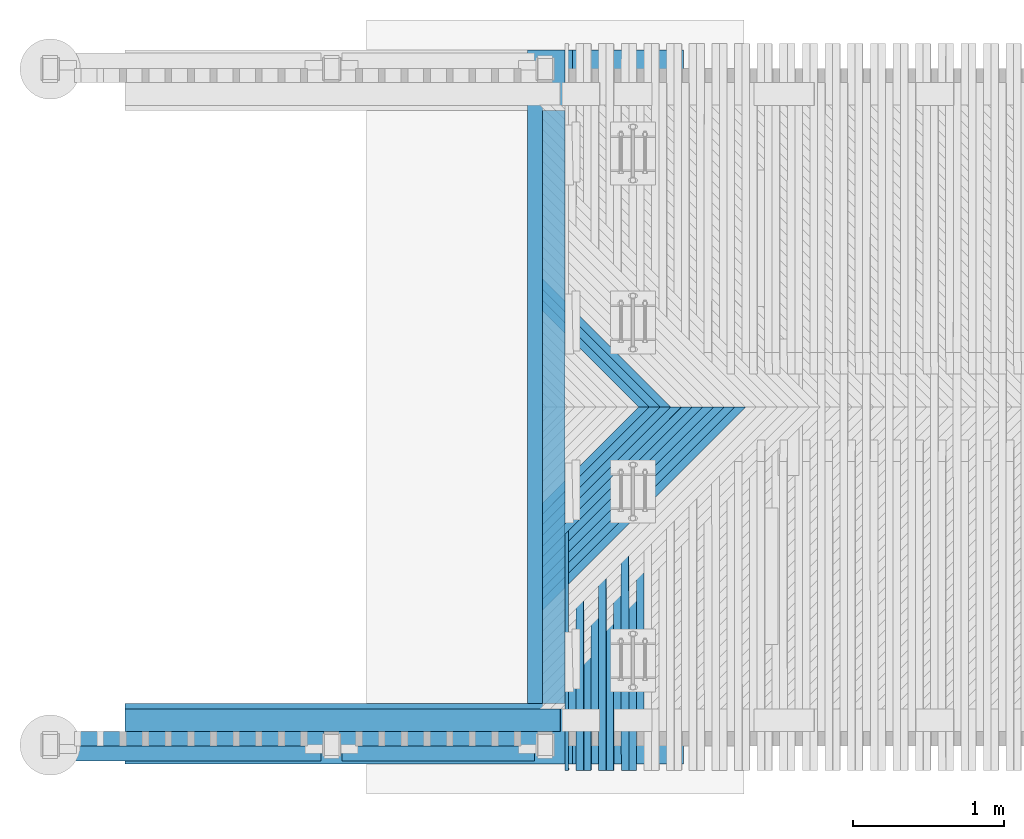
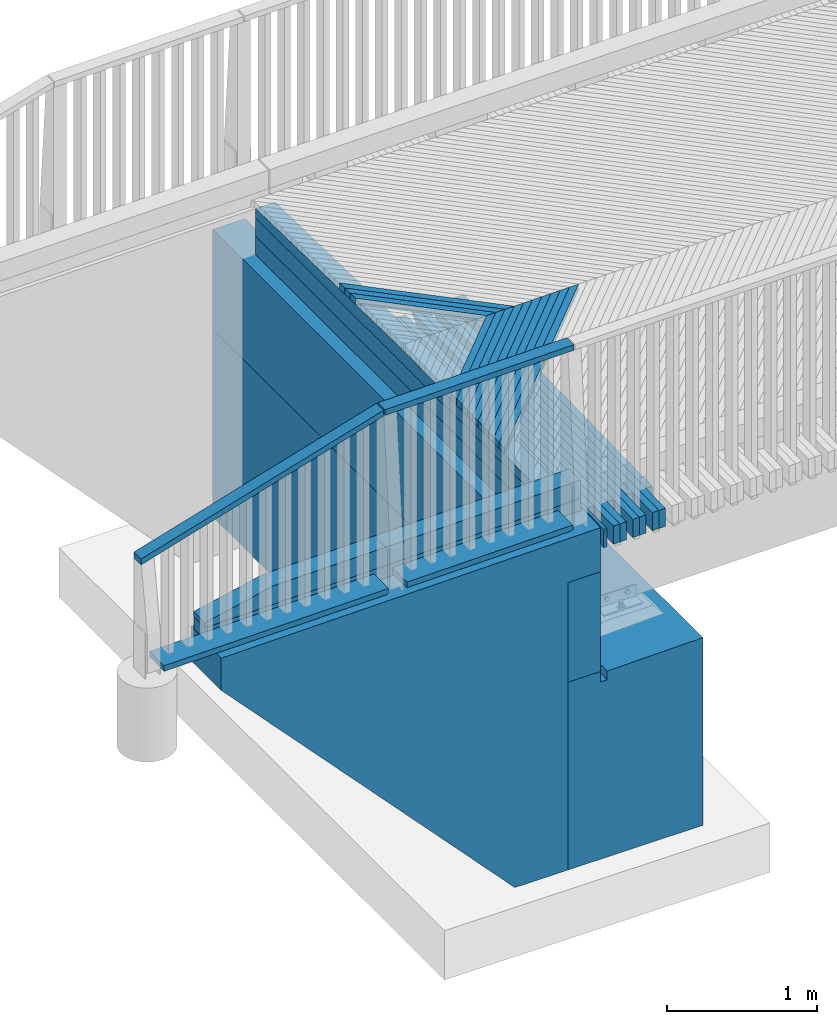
# One storey, part 13 of 47: 36 beams.
"""IFC2X3 building model written with IfcOpenShell, lengths in millimetres."""

from ifc_helpers import new_model, si_unit, frame, origin_with_axes, place, context, subcontext, project, spatial, faceted_brep, material, type_object, element, save


model = new_model("IFC2X3")

# Units and contexts
model_context = context("Model", 3, precision=1e-05, world=origin_with_axes())
body_context = subcontext(model_context, "Body", "Model", "MODEL_VIEW")
ifc_project = project(units=[si_unit("LENGTHUNIT", "METRE", prefix="MILLI"), si_unit("AREAUNIT", "SQUARE_METRE"), si_unit("VOLUMEUNIT", "CUBIC_METRE"), si_unit("MASSUNIT", "GRAM", prefix="KILO"), si_unit("TIMEUNIT", "SECOND"), si_unit("PLANEANGLEUNIT", "RADIAN"), si_unit("SOLIDANGLEUNIT", "STERADIAN"), si_unit("THERMODYNAMICTEMPERATUREUNIT", "DEGREE_CELSIUS"), si_unit("LUMINOUSINTENSITYUNIT", "LUMEN")], contexts=[model_context])

# Site, building, storey
site_placement = place(None, origin_with_axes())
site = spatial("IfcSite", under=ifc_project, at=site_placement, Name="Undefined", CompositionType="ELEMENT")
building_placement = place(site_placement, origin_with_axes())
building = spatial("IfcBuilding", under=site, at=building_placement, Name="Undefined", CompositionType="ELEMENT")
storey_placement = place(building_placement, origin_with_axes())
storey = spatial("IfcBuildingStorey", under=building, at=storey_placement, Name="Undefined", CompositionType="ELEMENT", Elevation=0.0)

# Beams
ifc_material_1 = material(Name="TIMBER/Timber_Undefined")
beam_type_1 = type_object("IfcBeamType", Name="95*45", PredefinedType="NOTDEFINED")
beam_1_placement = place(storey_placement, frame((-2047.34558165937, 60167.5120919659, 4509.17778679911), z_axis=(0.0, -1.0, 0.0), x_axis=(0.999901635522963, 0.0, 0.0140256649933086)))
element("IfcBeam", 1, at=beam_1_placement, inside=storey, type_object=beam_type_1, material=ifc_material_1, Name="YLÄJOHDE", ObjectType="95*45", context=body_context, shape_type="Brep", body=[
    faceted_brep([(10.662208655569, 22.5, -47.5), (10.662208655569, 22.5, 47.5), (1460.80524071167, 22.5, 47.5), (1460.80524071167, 22.5, -47.5), (10.030991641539, -22.4999999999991, 47.5), (1460.17402369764, -22.4999999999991, 47.5), (10.030991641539, -22.4999999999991, -47.5), (1460.17402369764, -22.4999999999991, -47.5)], [[[0, 1, 2, 3]], [[1, 4, 5, 2]], [[4, 6, 7, 5]], [[6, 0, 3, 7]], [[5, 7, 3, 2]], [[6, 4, 1, 0]]]),
])
beam_2_placement = place(storey_placement, frame((-2040.59645881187, 60167.5099640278, 4510.12573356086), z_axis=(0.0, -1.0, 0.0), x_axis=(-0.958249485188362, 0.0, -0.285933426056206)))
element("IfcBeam", 2, at=beam_2_placement, inside=storey, type_object=beam_type_1, material=ifc_material_1, Name="YLÄJOHDE", ObjectType="95*45", context=body_context, shape_type="Brep", body=[
    faceted_brep([(13.4276539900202, 22.4999999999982, -47.5), (13.4276539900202, 22.4999999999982, 47.5), (1959.6848957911, 22.4999999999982, 47.5), (1959.6848957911, 22.4999999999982, -47.5), (4.00216176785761e-05, -22.5000000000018, 47.5), (1946.25728182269, -22.5000000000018, 47.5), (4.00216176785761e-05, -22.5000000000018, -47.5), (1946.25728182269, -22.5000000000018, -47.5)], [[[0, 1, 2, 3]], [[1, 4, 5, 2]], [[4, 6, 7, 5]], [[6, 0, 3, 7]], [[5, 7, 3, 2]], [[6, 4, 1, 0]]]),
])
beam_type_2 = type_object("IfcBeamType", Name="195*45", PredefinedType="NOTDEFINED")
beam_3_placement = place(storey_placement, frame((-3791.71869800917, 60117.5099700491, 3105.29183869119), z_axis=(0.0, -1.0, 0.0), x_axis=(0.999901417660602, 0.0, 0.0140411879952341)))
element("IfcBeam", 3, at=beam_3_placement, inside=storey, type_object=beam_type_2, material=ifc_material_1, Name="BEAM", ObjectType="195*45", context=body_context, shape_type="Brep", body=[
    faceted_brep([(0.0, 22.5, -97.5), (0.0, 22.5, 97.5), (1724.99699880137, 22.5, 97.5), (1724.99699880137, 22.5, -97.5), (0.0, -22.5, 97.5), (1724.99699880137, -22.4999999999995, 97.5), (0.0, -22.5, -97.5), (1724.99699880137, -22.4999999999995, -97.5)], [[[0, 1, 2, 3]], [[1, 4, 5, 2]], [[4, 6, 7, 5]], [[6, 0, 3, 7]], [[5, 7, 3, 2]], [[6, 4, 1, 0]]]),
])
beam_4_placement = place(storey_placement, frame((-1926.69935131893, 60117.5099700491, 3131.48945565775), z_axis=(0.0, -1.0, 0.0), x_axis=(0.999901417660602, 0.0, 0.0140411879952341)))
element("IfcBeam", 4, at=beam_4_placement, inside=storey, type_object=beam_type_2, material=ifc_material_1, Name="BEAM", ObjectType="195*45", context=body_context, shape_type="Brep", body=[
    faceted_brep([(0.0, 22.5, -97.5), (0.0, 22.5, 97.5), (1275.1508080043, 22.5, 97.5), (1275.1508080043, 22.5, -97.5), (0.0, -22.5, 97.5), (1275.15080800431, -22.4999999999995, 97.5), (0.0, -22.5, -97.5), (1275.15080800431, -22.4999999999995, -97.5)], [[[0, 1, 2, 3]], [[1, 4, 5, 2]], [[4, 6, 7, 5]], [[6, 0, 3, 7]], [[5, 7, 3, 2]], [[6, 4, 1, 0]]]),
])
beam_type_3 = type_object("IfcBeamType", Name="150*100", PredefinedType="NOTDEFINED")
beam_5_placement = place(storey_placement, frame((-3364.03058800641, 60289.9999999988, 3118.6757290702), z_axis=(0.0, -1.0, 0.0), x_axis=(0.999904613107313, 0.0, 0.0138117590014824)))
element("IfcBeam", 5, at=beam_5_placement, inside=storey, type_object=beam_type_3, material=ifc_material_1, Name="TÖRMÄYSJOHDE", ObjectType="150*100", context=body_context, shape_type="Brep", body=[
    faceted_brep([(-3.63797880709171e-12, 50.0, -75.0), (-3.63797880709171e-12, 50.0, 75.0), (2885.27521749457, 50.0, 75.0), (2885.27521749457, 50.0, -75.0), (0.0, -49.9999999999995, 75.0), (2885.27521749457, -49.9999999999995, 75.0), (0.0, -49.9999999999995, -75.0), (2885.27521749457, -49.9999999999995, -75.0)], [[[0, 1, 2, 3]], [[1, 4, 5, 2]], [[4, 6, 7, 5]], [[6, 0, 3, 7]], [[5, 7, 3, 2]], [[6, 4, 1, 0]]]),
])
beam_type_4 = type_object("IfcBeamType", Name="150*150", PredefinedType="NOTDEFINED")
beam_6_placement = place(storey_placement, frame((-3366.03588197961, 60289.9999999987, 3243.66334439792), z_axis=(0.0, -1.0, 0.0), x_axis=(0.999904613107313, 0.0, 0.0138117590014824)))
element("IfcBeam", 6, at=beam_6_placement, inside=storey, type_object=beam_type_4, material=ifc_material_1, Name="TÖRMÄYSJOHDE", ObjectType="150*150", context=body_context, shape_type="Brep", body=[
    faceted_brep([(0.0, -75.0000000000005, 75.0), (0.0, -75.0000000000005, -75.0), (2885.27521749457, -74.9999999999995, -75.0), (2885.27521749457, -74.9999999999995, 75.0), (2885.27521749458, 75.0, -75.0), (2885.27521749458, 75.0, 75.0), (529.511118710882, 75.0, -75.0), (529.511118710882, 75.0, 75.0), (4.54747350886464e-13, -33.1222400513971, 75.0), (4.54747350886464e-13, -33.1222400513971, -75.0)], [[[0, 1, 2, 3]], [[3, 2, 4, 5]], [[5, 4, 6, 7]], [[0, 3, 5, 7, 8]], [[1, 0, 8, 9]], [[4, 2, 1, 9, 6]], [[8, 7, 6, 9]]]),
])
beam_7_placement = place(storey_placement, frame((-525.0, 60399.9992755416, 3109.00000000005), z_axis=(-1.0, 0.0, 0.0), x_axis=(0.0, 1.0, 0.0)))
element("IfcBeam", 7, at=beam_7_placement, inside=storey, type_object=beam_type_4, material=ifc_material_1, Name="BEAM", ObjectType="150*150", context=body_context, shape_type="Brep", body=[
    faceted_brep([(3.63797880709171e-12, 75.0000000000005, -75.0), (3.63797880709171e-12, 75.0000000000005, 75.0), (3930.0, 75.0, 75.0), (3930.0, 75.0, -75.0), (3930.0, -0.558028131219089, 75.0), (3930.0, -3.17681141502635, -75.0), (1965.00070282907, -42.4729688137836, -75.0), (0.0, -3.17678330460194, -75.0), (0.0, -0.55800002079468, 75.0), (1965.00070282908, -39.8541855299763, 75.0)], [[[0, 1, 2, 3]], [[3, 2, 4, 5]], [[0, 3, 5, 6, 7]], [[1, 0, 7, 8]], [[4, 2, 1, 8, 9]], [[5, 4, 9, 6]], [[8, 7, 6, 9]]]),
])
for number, where, z_axis, x_axis, name in (
    (8, (-525.0, 60399.9992755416, 2959.00000000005), (-1.0, 0.0, 0.0), (0.0, 1.0, 0.0), "BEAM"),
    (9, (-525.0, 60399.9992755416, 2809.00000000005), (-1.0, 0.0, 0.0), (0.0, 1.0, 0.0), "BEAM"),
):
    element("IfcBeam", number, at=place(storey_placement, frame(where, z_axis=z_axis, x_axis=x_axis)), inside=storey, type_object=beam_type_4, material=ifc_material_1, Name=name, ObjectType="150*150", context=body_context, shape_type="Brep", body=[
        faceted_brep([(3.63797880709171e-12, 75.0000000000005, -75.0), (3.63797880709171e-12, 75.0000000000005, 75.0), (3930.0, 75.0, 75.0), (3930.0, 75.0, -75.0), (0.0, -75.0000000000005, 75.0), (3930.0, -75.0, 75.0), (0.0, -75.0000000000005, -75.0), (3930.0, -75.0, -75.0)], [[[0, 1, 2, 3]], [[1, 4, 5, 2]], [[4, 6, 7, 5]], [[6, 0, 3, 7]], [[5, 7, 3, 2]], [[6, 4, 1, 0]]]),
    ])
ifc_material_2 = material(Name="CONCRETE/Concrete_Undefined")
beam_type_5 = type_object("IfcBeamType", Name="2800*400", PredefinedType="NOTDEFINED")
beam_8_placement = place(storey_placement, frame((-430.340033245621, 60200.0, 1712.66804762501), z_axis=(-0.0140428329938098, 0.0, 0.999901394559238), x_axis=(-0.999901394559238, 0.0, -0.0140428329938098)))
element("IfcBeam", 10, at=beam_8_placement, inside=storey, type_object=beam_type_5, material=ifc_material_2, Name="SIIPIMUURI", ObjectType="2800*400", context=body_context, shape_type="Brep", body=[
    faceted_brep([(0.280884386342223, 199.999999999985, 1380.0), (3.63797880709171e-12, -200.0, 1400.0), (2915.2874638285, -200.0, 1400.0), (2915.5683481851, 200.0, 1380.0), (270.457242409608, 199.999999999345, -54.8754727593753), (270.457242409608, -200.0, -54.8754727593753), (255.29098277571, -200.0, 1025.01803336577), (255.29098277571, 199.999999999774, 1025.01803336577), (288.066954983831, 200.0, -1308.75182153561), (288.066954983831, -200.0, -1308.75182153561), (697.173583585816, 200.0, -1303.00623892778), (697.173583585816, -200.0, -1303.00623892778), (2919.22031514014, 200.0, 1119.96651154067), (2919.22031514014, -200.0, 1119.96651154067), (5.31563413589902, -200.0, 1021.50732511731), (5.31563413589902, 199.999999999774, 1021.50732511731)], [[[0, 1, 2, 3]], [[4, 5, 6, 7]], [[8, 9, 5, 4]], [[10, 11, 9, 8]], [[12, 13, 11, 10]], [[13, 12, 3, 2]], [[6, 5, 9, 11, 13, 2, 1, 14]], [[7, 6, 14, 15]], [[12, 10, 8, 4, 7, 15, 0, 3]], [[15, 14, 1, 0]]]),
])
beam_type_6 = type_object("IfcBeamType", Name="810*250", PredefinedType="NOTDEFINED")
beam_9_placement = place(storey_placement, frame((-575.0, 60000.0, 2329.0), z_axis=(0.0, 0.0, 1.0), x_axis=(0.0, 1.0, 0.0)))
element("IfcBeam", 11, at=beam_9_placement, inside=storey, type_object=beam_type_6, material=ifc_material_2, Name="OTSAMUURI", ObjectType="810*250", context=body_context, shape_type="Brep", body=[
    faceted_brep([(0.0, 125.0, -405.0), (0.0, 125.0, 405.0), (4730.0, 125.0, 405.0), (4730.0, 125.0, -405.0), (0.0, -125.0, 405.0), (4730.0, -125.0, 405.0), (0.0, -125.0, -405.0), (4730.0, -125.0, -405.0)], [[[0, 1, 2, 3]], [[1, 4, 5, 2]], [[4, 6, 7, 5]], [[6, 0, 3, 7]], [[5, 7, 3, 2]], [[6, 4, 1, 0]]]),
])
beam_type_7 = type_object("IfcBeamType", Name="1524*1035", PredefinedType="NOTDEFINED")
beam_10_placement = place(storey_placement, frame((-182.5, 60000.0, 1162.0), z_axis=(0.0, 0.0, 1.0), x_axis=(0.0, 1.0, 0.0)))
element("IfcBeam", 12, at=beam_10_placement, inside=storey, type_object=beam_type_7, material=ifc_material_2, Name="LAAKERIPALKKI", ObjectType="1524*1035", context=body_context, shape_type="Brep", body=[
    faceted_brep([(4730.0, 267.5, 762.0), (2366.92526672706, 267.5, 762.0), (2367.55223388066, 267.5, 737.442575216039), (4730.0, 267.5, 676.997414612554), (2367.55223388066, 217.5, 737.442575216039), (4730.0, 217.5, 676.997414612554), (4730.0, 217.500000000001, 747.0), (2367.30822656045, 217.5, 747.0), (0.0, 217.5, 676.997414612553), (0.0, 267.5, 676.997414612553), (0.0, 267.5, 762.0), (0.0, 517.5, 762.0), (0.0, 517.5, -762.0), (0.0, -517.5, -762.0), (0.0, -517.5, 762.0), (0.0, 217.5, 747.0), (4730.0, 517.5, -762.0), (4730.0, 517.5, 762.0), (4730.0, -517.5, -762.0), (4730.0, -517.5, 762.0), (2362.69177343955, 217.5, 747.0), (2362.45109111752, 217.5, 737.312339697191), (2362.45109111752, 267.5, 737.312339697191), (2363.07473327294, 267.5, 762.0)], [[[0, 1, 2, 3]], [[3, 2, 4, 5]], [[6, 5, 4, 7]], [[8, 9, 10, 11, 12, 13, 14, 15]], [[16, 12, 11, 17]], [[13, 12, 16, 18]], [[14, 13, 18, 19]], [[20, 15, 14, 19, 6, 7]], [[7, 4, 21, 8, 15, 20]], [[8, 21, 4, 2, 22, 9]], [[23, 10, 9, 22, 2, 1]], [[17, 11, 10, 23, 1, 0]], [[19, 18, 16, 17, 0, 3, 5, 6]]]),
])
beam_type_8 = type_object("IfcBeamType", Name="150*50", PredefinedType="NOTDEFINED")
beam_11_placement = place(storey_placement, frame((-451.366781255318, 59958.5561921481, 3028.65854986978), z_axis=(-0.0140342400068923, -0.0199960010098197, 0.99970155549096), x_axis=(-0.000280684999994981, 0.999800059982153, 0.0199940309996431)))
element("IfcBeam", 13, at=beam_11_placement, inside=storey, type_object=beam_type_8, material=ifc_material_1, Name="BEAM", ObjectType="150*50", context=body_context, shape_type="Brep", body=[
    faceted_brep([(6.18456397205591e-09, -24.9999999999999, -75.0000000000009), (-6.1918399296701e-09, -24.9999999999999, 74.9999999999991), (-6.1918399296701e-09, -1.51686727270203, 74.9999999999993), (6.19911588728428e-09, 0.1430836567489, -75.0000000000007), (2633.00495050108, -24.9999999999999, -75.0000000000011), (2633.00495054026, -0.439670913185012, -75.0000000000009), (2768.59248707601, -25.0, 60.5875366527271), (2408.42499905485, -25.0, 74.9999999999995), (2408.4249982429, -2.04991627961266, 74.9999999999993), (2768.59248708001, -1.97013778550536, 60.5875366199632)], [[[0, 1, 2, 3]], [[4, 0, 3, 5]], [[1, 0, 4, 6, 7]], [[2, 1, 7, 8]], [[5, 3, 2, 8, 9]], [[4, 5, 9, 6]], [[8, 7, 6, 9]]]),
])
beam_12_placement = place(storey_placement, frame((-301.352542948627, 59958.5561921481, 3030.74621527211), z_axis=(-0.0137850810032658, -0.0199960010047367, 0.999705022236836), x_axis=(-0.000275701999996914, 0.999800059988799, 0.019994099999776)))
element("IfcBeam", 14, at=beam_12_placement, inside=storey, type_object=beam_type_8, material=ifc_material_1, Name="BEAM", ObjectType="150*50", context=body_context, shape_type="Brep", body=[
    faceted_brep([(6.18456397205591e-09, -24.9999999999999, -75.0000000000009), (-6.1918399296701e-09, -24.9999999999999, 74.9999999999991), (-6.19911588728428e-09, 25.0, 75.0), (6.18456397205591e-09, 24.9999999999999, -75.0), (2633.00494983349, 25.0000000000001, -75.0000000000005), (2633.00495050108, -24.9999999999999, -75.0000000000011), (2768.59248707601, -25.0, 60.5875366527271), (2408.42499905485, -25.0, 74.9999999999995), (2408.42501428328, 25.0000000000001, 74.9999999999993), (2768.5924870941, 25.0, 60.5875375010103)], [[[0, 1, 2, 3]], [[0, 3, 4, 5]], [[1, 0, 5, 6, 7]], [[2, 1, 7, 8]], [[4, 3, 2, 8, 9]], [[5, 4, 9, 6]], [[8, 7, 6, 9]]]),
])
beam_13_placement = place(storey_placement, frame((-401.434081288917, 60216.5046076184, 3034.51705788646), z_axis=(-0.0139511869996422, -0.0199960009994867, 0.999702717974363), x_axis=(-0.00027902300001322, 0.999800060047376, 0.0199940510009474)))
element("IfcBeam", 15, at=beam_13_placement, inside=storey, type_object=beam_type_8, material=ifc_material_1, Name="BEAM", ObjectType="150*50", context=body_context, shape_type="Brep", body=[
    faceted_brep([(6.18456397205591e-09, -24.9999999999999, -75.0000000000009), (-6.1918399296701e-09, -24.9999999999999, 74.9999999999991), (-6.19911588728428e-09, 25.0, 75.0), (6.18456397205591e-09, 24.9999999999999, -75.0), (2375.00494220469, 24.9999999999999, -75.0000000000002), (2375.00494218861, -25.0, -75.0), (2510.59248711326, -25.0, 60.5875455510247), (2150.42518973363, -25.0, 75.0000000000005), (2150.42518840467, 25.0, 74.9999999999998), (2510.59248707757, 25.0, 60.5875454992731)], [[[0, 1, 2, 3]], [[0, 3, 4, 5]], [[1, 0, 5, 6, 7]], [[2, 1, 7, 8]], [[4, 3, 2, 8, 9]], [[5, 4, 9, 6]], [[8, 7, 6, 9]]]),
])
beam_14_placement = place(storey_placement, frame((-351.386343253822, 59958.5561921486, 3030.05540860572), z_axis=(-0.0139511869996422, -0.0199960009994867, 0.999702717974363), x_axis=(-0.00027902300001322, 0.999800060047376, 0.0199940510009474)))
element("IfcBeam", 16, at=beam_14_placement, inside=storey, type_object=beam_type_8, material=ifc_material_1, Name="BEAM", ObjectType="150*50", context=body_context, shape_type="Brep", body=[
    faceted_brep([(6.18456397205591e-09, -24.9999999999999, -75.0000000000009), (-6.1918399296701e-09, -24.9999999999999, 74.9999999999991), (-6.19911588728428e-09, 25.0, 75.0), (6.18456397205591e-09, 24.9999999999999, -75.0), (2186.42645915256, -25.0000000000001, -75.0), (2047.96936034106, -25.0000000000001, 75.0), (2047.96935975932, 25.0, 75.0), (2186.42645864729, 25.0, -75.0)], [[[0, 1, 2, 3]], [[1, 0, 4, 5]], [[2, 1, 5, 6]], [[3, 2, 6, 7]], [[0, 3, 7, 4]], [[5, 4, 7, 6]]]),
])
beam_15_placement = place(storey_placement, frame((-151.337788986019, 59958.5561921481, 3032.79649210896), z_axis=(-0.0135359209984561, -0.0199960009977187, 0.999708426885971), x_axis=(-0.00027071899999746, 0.999800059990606, 0.0199941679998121)))
element("IfcBeam", 17, at=beam_15_placement, inside=storey, type_object=beam_type_8, material=ifc_material_1, Name="BEAM", ObjectType="150*50", context=body_context, shape_type="Brep", body=[
    faceted_brep([(6.18456397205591e-09, -24.9999999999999, -75.0000000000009), (-6.1918399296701e-09, -24.9999999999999, 74.9999999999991), (-6.19911588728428e-09, 25.0, 75.0), (6.18456397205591e-09, 24.9999999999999, -75.0), (2633.00494983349, 25.0000000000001, -75.0000000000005), (2633.00495050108, -24.9999999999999, -75.0000000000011), (2768.59248707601, -25.0, 60.5875366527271), (2408.42499905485, -25.0, 74.9999999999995), (2408.42501428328, 25.0000000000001, 74.9999999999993), (2768.5924870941, 25.0, 60.5875375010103)], [[[0, 1, 2, 3]], [[0, 3, 4, 5]], [[1, 0, 5, 6, 7]], [[2, 1, 7, 8]], [[4, 3, 2, 8, 9]], [[5, 4, 9, 6]], [[8, 7, 6, 9]]]),
])
beam_16_placement = place(storey_placement, frame((-251.418384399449, 60216.5046076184, 3036.59227822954), z_axis=(-0.0137020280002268, -0.0199960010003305, 0.999706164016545), x_axis=(-0.000274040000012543, 0.999800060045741, 0.0199941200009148)))
element("IfcBeam", 18, at=beam_16_placement, inside=storey, type_object=beam_type_8, material=ifc_material_1, Name="BEAM", ObjectType="150*50", context=body_context, shape_type="Brep", body=[
    faceted_brep([(6.18456397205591e-09, -24.9999999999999, -75.0000000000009), (-6.1918399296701e-09, -24.9999999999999, 74.9999999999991), (-6.19911588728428e-09, 25.0, 75.0), (6.18456397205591e-09, 24.9999999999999, -75.0), (2375.00494220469, 24.9999999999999, -75.0000000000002), (2375.00494218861, -25.0, -75.0), (2510.59248711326, -25.0, 60.5875455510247), (2150.42518973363, -25.0, 75.0000000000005), (2150.42518840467, 25.0, 74.9999999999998), (2510.59248707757, 25.0, 60.5875454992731)], [[[0, 1, 2, 3]], [[0, 3, 4, 5]], [[1, 0, 5, 6, 7]], [[2, 1, 7, 8]], [[4, 3, 2, 8, 9]], [[5, 4, 9, 6]], [[8, 7, 6, 9]]]),
])
beam_17_placement = place(storey_placement, frame((-201.371759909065, 59958.5561921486, 3032.1181555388), z_axis=(-0.0137020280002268, -0.0199960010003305, 0.999706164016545), x_axis=(-0.000274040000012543, 0.999800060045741, 0.0199941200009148)))
element("IfcBeam", 19, at=beam_17_placement, inside=storey, type_object=beam_type_8, material=ifc_material_1, Name="BEAM", ObjectType="150*50", context=body_context, shape_type="Brep", body=[
    faceted_brep([(6.18456397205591e-09, -24.9999999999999, -75.0000000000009), (-6.1918399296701e-09, -24.9999999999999, 74.9999999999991), (-6.19911588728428e-09, 25.0, 75.0), (6.18456397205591e-09, 24.9999999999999, -75.0), (2186.42645915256, -25.0000000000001, -75.0), (2047.96936034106, -25.0000000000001, 75.0), (2047.96935975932, 25.0, 75.0), (2186.42645864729, 25.0, -75.0)], [[[0, 1, 2, 3]], [[1, 0, 4, 5]], [[2, 1, 5, 6]], [[3, 2, 6, 7]], [[0, 3, 7, 4]], [[5, 4, 7, 6]]]),
])
beam_18_placement = place(storey_placement, frame((-1.32252868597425, 59958.5561921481, 3034.80938025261), z_axis=(-0.0132867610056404, -0.0199960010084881, 0.999711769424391), x_axis=(-0.000265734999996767, 0.999800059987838, 0.0199942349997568)))
element("IfcBeam", 20, at=beam_18_placement, inside=storey, type_object=beam_type_8, material=ifc_material_1, Name="BEAM", ObjectType="150*50", context=body_context, shape_type="Brep", body=[
    faceted_brep([(6.18456397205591e-09, -24.9999999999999, -75.0000000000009), (-6.1918399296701e-09, -24.9999999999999, 74.9999999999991), (-6.19911588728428e-09, 25.0, 75.0), (6.18456397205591e-09, 24.9999999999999, -75.0), (2633.00494983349, 25.0000000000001, -75.0000000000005), (2633.00495050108, -24.9999999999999, -75.0000000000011), (2768.59248707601, -25.0, 60.5875366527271), (2408.42499905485, -25.0, 74.9999999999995), (2408.42501428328, 25.0000000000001, 74.9999999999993), (2768.5924870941, 25.0, 60.5875375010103)], [[[0, 1, 2, 3]], [[0, 3, 4, 5]], [[1, 0, 5, 6, 7]], [[2, 1, 7, 8]], [[4, 3, 2, 8, 9]], [[5, 4, 9, 6]], [[8, 7, 6, 9]]]),
])
beam_19_placement = place(storey_placement, frame((-101.402174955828, 60216.5046076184, 3038.6301096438), z_axis=(-0.0134528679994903, -0.0199960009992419, 0.99970954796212), x_axis=(-0.000269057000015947, 0.999800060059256, 0.0199941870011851)))
element("IfcBeam", 21, at=beam_19_placement, inside=storey, type_object=beam_type_8, material=ifc_material_1, Name="BEAM", ObjectType="150*50", context=body_context, shape_type="Brep", body=[
    faceted_brep([(6.18456397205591e-09, -24.9999999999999, -75.0000000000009), (-6.1918399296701e-09, -24.9999999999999, 74.9999999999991), (-6.19911588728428e-09, 25.0, 75.0), (6.18456397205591e-09, 24.9999999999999, -75.0), (2375.00494220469, 24.9999999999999, -75.0000000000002), (2375.00494218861, -25.0, -75.0), (2510.59248711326, -25.0, 60.5875455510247), (2150.42518973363, -25.0, 75.0000000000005), (2150.42518840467, 25.0, 74.9999999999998), (2510.59248707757, 25.0, 60.5875454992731)], [[[0, 1, 2, 3]], [[0, 3, 4, 5]], [[1, 0, 5, 6, 7]], [[2, 1, 7, 8]], [[4, 3, 2, 8, 9]], [[5, 4, 9, 6]], [[8, 7, 6, 9]]]),
])
beam_20_placement = place(storey_placement, frame((-51.3566671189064, 59958.5561921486, 3034.14351382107), z_axis=(-0.0134528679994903, -0.0199960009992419, 0.99970954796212), x_axis=(-0.000269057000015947, 0.999800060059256, 0.0199941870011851)))
element("IfcBeam", 22, at=beam_20_placement, inside=storey, type_object=beam_type_8, material=ifc_material_1, Name="BEAM", ObjectType="150*50", context=body_context, shape_type="Brep", body=[
    faceted_brep([(6.18456397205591e-09, -24.9999999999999, -75.0000000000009), (-6.1918399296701e-09, -24.9999999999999, 74.9999999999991), (-6.19911588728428e-09, 25.0, 75.0), (6.18456397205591e-09, 24.9999999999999, -75.0), (2186.42645915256, -25.0000000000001, -75.0), (2047.96936034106, -25.0000000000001, 75.0), (2047.96935975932, 25.0, 75.0), (2186.42645864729, 25.0, -75.0)], [[[0, 1, 2, 3]], [[1, 0, 4, 5]], [[2, 1, 5, 6]], [[3, 2, 6, 7]], [[0, 3, 7, 4]], [[5, 4, 7, 6]]]),
])
beam_21_placement = place(storey_placement, frame((48.6145377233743, 60216.5046076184, 3040.63055200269), z_axis=(-0.0132037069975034, -0.0199960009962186, 0.999712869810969), x_axis=(-0.000264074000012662, 0.999800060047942, 0.0199942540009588)))
element("IfcBeam", 23, at=beam_21_placement, inside=storey, type_object=beam_type_8, material=ifc_material_1, Name="BEAM", ObjectType="150*50", context=body_context, shape_type="Brep", body=[
    faceted_brep([(6.18456397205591e-09, -24.9999999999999, -75.0000000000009), (-6.1918399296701e-09, -24.9999999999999, 74.9999999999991), (-6.19911588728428e-09, 25.0, 75.0), (6.18456397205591e-09, 24.9999999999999, -75.0), (2375.00494220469, 24.9999999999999, -75.0000000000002), (2375.00494218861, -25.0, -75.0), (2510.59248711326, -25.0, 60.5875455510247), (2150.42518973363, -25.0, 75.0000000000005), (2150.42518840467, 25.0, 74.9999999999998), (2510.59248707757, 25.0, 60.5875454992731)], [[[0, 1, 2, 3]], [[0, 3, 4, 5]], [[1, 0, 5, 6, 7]], [[2, 1, 7, 8]], [[4, 3, 2, 8, 9]], [[5, 4, 9, 6]], [[8, 7, 6, 9]]]),
])
beam_type_9 = type_object("IfcBeamType", Name="50*50", PredefinedType="NOTDEFINED")
beam_22_placement = place(storey_placement, frame((73.4729104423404, 62364.5001003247, 3183.9450845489), z_axis=(0.70722262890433, -0.706981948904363, -0.0035604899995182), x_axis=(-0.706832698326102, -0.706948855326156, -0.0247154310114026)))
element("IfcBeam", 24, at=beam_22_placement, inside=storey, type_object=beam_type_9, material=ifc_material_1, Name="BEAM", ObjectType="50*50", context=body_context, shape_type="Brep", body=[
    faceted_brep([(23.4806436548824, -25.0000000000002, -25.0), (-26.4222658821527, -25.0000000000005, 25.0000000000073), (-25.0086637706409, 24.9999999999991, 25.0), (24.8942457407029, 24.9999999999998, -24.9999999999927), (928.3190396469, 25.0000000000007, -25.0), (927.261060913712, -24.9999999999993, -25.0000000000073), (977.288643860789, -24.9999999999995, 24.9999999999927), (978.346622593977, 25.0000000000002, 24.9999999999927)], [[[0, 1, 2, 3]], [[0, 3, 4, 5]], [[1, 0, 5, 6]], [[2, 1, 6, 7]], [[3, 2, 7, 4]], [[6, 5, 4, 7]]]),
])
beam_23_placement = place(storey_placement, frame((73.4729104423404, 62365.4998996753, 3183.9450845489), z_axis=(0.70722262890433, 0.706981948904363, -0.0035604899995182), x_axis=(-0.706832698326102, 0.706948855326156, -0.0247154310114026)))
element("IfcBeam", 25, at=beam_23_placement, inside=storey, type_object=beam_type_9, material=ifc_material_1, Name="BEAM", ObjectType="50*50", context=body_context, shape_type="Brep", body=[
    faceted_brep([(25.0011701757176, -25.0, -24.9999999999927), (-25.0011704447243, -25.0, 24.9999999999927), (-26.4154158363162, 25.0, 25.0), (23.5869248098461, 25.0, -25.0), (977.288643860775, 25.0, 24.9999999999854), (927.261060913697, 24.9999999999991, -25.0000000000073), (928.319039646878, -25.0, -25.0000000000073), (978.346622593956, -25.0, 24.9999999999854)], [[[0, 1, 2, 3]], [[3, 2, 4, 5]], [[0, 3, 5, 6]], [[1, 0, 6, 7]], [[2, 1, 7, 4]], [[6, 5, 4, 7]]]),
])
beam_24_placement = place(storey_placement, frame((144.191069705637, 62364.5001003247, 3184.87198634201), z_axis=(0.707222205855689, -0.706981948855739, -0.00364356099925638), x_axis=(-0.706835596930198, -0.706948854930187, -0.0246324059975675)))
element("IfcBeam", 26, at=beam_24_placement, inside=storey, type_object=beam_type_9, material=ifc_material_1, Name="BEAM", ObjectType="50*50", context=body_context, shape_type="Brep", body=[
    faceted_brep([(23.4806436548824, -25.0000000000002, -25.0), (-26.4222658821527, -25.0000000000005, 25.0000000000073), (-25.0086637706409, 24.9999999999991, 25.0), (24.8942457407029, 24.9999999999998, -24.9999999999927), (1028.36004453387, 25.0000000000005, -25.0), (1027.310376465, -24.9999999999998, -25.0), (1077.33772433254, -25.0, 25.0), (1078.38739240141, 25.0000000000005, 24.9999999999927)], [[[0, 1, 2, 3]], [[0, 3, 4, 5]], [[1, 0, 5, 6]], [[2, 1, 6, 7]], [[3, 2, 7, 4]], [[6, 5, 4, 7]]]),
])
beam_25_placement = place(storey_placement, frame((144.191069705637, 62365.4998996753, 3184.87198634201), z_axis=(0.707222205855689, 0.706981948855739, -0.00364356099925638), x_axis=(-0.706835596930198, 0.706948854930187, -0.0246324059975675)))
element("IfcBeam", 27, at=beam_25_placement, inside=storey, type_object=beam_type_9, material=ifc_material_1, Name="BEAM", ObjectType="50*50", context=body_context, shape_type="Brep", body=[
    faceted_brep([(25.0011701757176, -25.0, -24.9999999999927), (-25.0011704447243, -25.0, 24.9999999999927), (-26.4154158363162, 25.0, 25.0), (23.5869248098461, 25.0, -25.0), (1077.33772433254, 25.0, 25.0), (1027.310376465, 25.0, -25.0000000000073), (1028.36004453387, -25.0, -25.0), (1078.38739240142, -25.0, 24.9999999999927)], [[[0, 1, 2, 3]], [[3, 2, 4, 5]], [[0, 3, 5, 6]], [[1, 0, 6, 7]], [[2, 1, 7, 4]], [[6, 5, 4, 7]]]),
])
beam_26_placement = place(storey_placement, frame((214.909337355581, 62364.5001003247, 3185.79058152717), z_axis=(0.707221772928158, -0.706981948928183, -0.00372663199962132), x_axis=(-0.706838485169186, -0.706948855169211, -0.0245493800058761)))
element("IfcBeam", 28, at=beam_26_placement, inside=storey, type_object=beam_type_9, material=ifc_material_1, Name="BEAM", ObjectType="50*50", context=body_context, shape_type="Brep", body=[
    faceted_brep([(23.4806436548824, -25.0000000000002, -25.0), (-26.4222658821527, -25.0000000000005, 25.0000000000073), (-25.0086637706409, 24.9999999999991, 25.0), (24.8942457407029, 24.9999999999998, -24.9999999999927), (1128.40039913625, 24.9999999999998, -24.9999999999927), (1127.35904169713, -25.0000000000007, -25.0), (1177.38615452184, -25.0000000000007, 25.0), (1178.42751196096, 24.9999999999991, 25.0)], [[[0, 1, 2, 3]], [[0, 3, 4, 5]], [[1, 0, 5, 6]], [[2, 1, 6, 7]], [[3, 2, 7, 4]], [[6, 5, 4, 7]]]),
])
beam_27_placement = place(storey_placement, frame((214.909337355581, 62365.4998996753, 3185.79058152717), z_axis=(0.707221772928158, 0.706981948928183, -0.00372663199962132), x_axis=(-0.706838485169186, 0.706948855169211, -0.0245493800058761)))
element("IfcBeam", 29, at=beam_27_placement, inside=storey, type_object=beam_type_9, material=ifc_material_1, Name="BEAM", ObjectType="50*50", context=body_context, shape_type="Brep", body=[
    faceted_brep([(25.0011701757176, -25.0, -24.9999999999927), (-25.0011704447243, -25.0, 24.9999999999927), (-26.4154158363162, 25.0, 25.0), (23.5869248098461, 25.0, -25.0), (1177.38615452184, 25.0000000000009, 25.0), (1127.35904169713, 25.0000000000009, -25.0), (1128.40039913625, -25.0, -25.0), (1178.42751196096, -25.0, 25.0)], [[[0, 1, 2, 3]], [[3, 2, 4, 5]], [[0, 3, 5, 6]], [[1, 0, 6, 7]], [[2, 1, 7, 4]], [[6, 5, 4, 7]]]),
])
beam_28_placement = place(storey_placement, frame((285.627712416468, 62364.5001003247, 3186.70087009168), z_axis=(0.707221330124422, -0.706981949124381, -0.00380970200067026), x_axis=(-0.706841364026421, -0.706948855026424, -0.0244663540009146)))
element("IfcBeam", 30, at=beam_28_placement, inside=storey, type_object=beam_type_9, material=ifc_material_1, Name="BEAM", ObjectType="50*50", context=body_context, shape_type="Brep", body=[
    faceted_brep([(23.4806436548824, -25.0000000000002, -25.0), (-26.4222658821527, -25.0000000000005, 25.0000000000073), (-25.0086637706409, 24.9999999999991, 25.0), (24.8942457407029, 24.9999999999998, -24.9999999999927), (1228.44010482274, 25.0, -25.0000000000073), (1227.40705788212, -24.9999999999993, -25.0000000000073), (1277.43393563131, -24.9999999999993, 24.9999999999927), (1278.46698257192, 25.0000000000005, 24.9999999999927)], [[[0, 1, 2, 3]], [[0, 3, 4, 5]], [[1, 0, 5, 6]], [[2, 1, 6, 7]], [[3, 2, 7, 4]], [[6, 5, 4, 7]]]),
])
beam_29_placement = place(storey_placement, frame((356.346193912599, 62364.5001003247, 3187.60285202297), z_axis=(0.707220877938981, -0.706981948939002, -0.00389277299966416), x_axis=(-0.706844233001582, -0.706948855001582, -0.0243833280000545)))
element("IfcBeam", 31, at=beam_29_placement, inside=storey, type_object=beam_type_9, material=ifc_material_1, Name="BEAM", ObjectType="50*50", context=body_context, shape_type="Brep", body=[
    faceted_brep([(23.4806436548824, -25.0000000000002, -25.0), (-26.4222658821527, -25.0000000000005, 25.0000000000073), (-25.0086637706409, 24.9999999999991, 25.0), (24.8942457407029, 24.9999999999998, -24.9999999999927), (1328.47916507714, 25.0000000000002, -25.0000000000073), (1327.4544286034, -24.9999999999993, -25.0000000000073), (1377.48107131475, -24.9999999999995, 25.0), (1378.50580778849, 25.0000000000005, 25.0)], [[[0, 1, 2, 3]], [[0, 3, 4, 5]], [[1, 0, 5, 6]], [[2, 1, 6, 7]], [[3, 2, 7, 4]], [[6, 5, 4, 7]]]),
])
beam_30_placement = place(storey_placement, frame((427.06478086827, 62364.5001003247, 3188.49652730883), z_axis=(0.707220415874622, -0.706981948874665, -0.0039758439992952), x_axis=(-0.706847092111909, -0.706948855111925, -0.0243003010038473)))
element("IfcBeam", 32, at=beam_30_placement, inside=storey, type_object=beam_type_9, material=ifc_material_1, Name="BEAM", ObjectType="50*50", context=body_context, shape_type="Brep", body=[
    faceted_brep([(23.4806436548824, -25.0000000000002, -25.0), (-26.4222658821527, -25.0000000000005, 25.0000000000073), (-25.0086637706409, 24.9999999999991, 25.0), (24.8942457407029, 24.9999999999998, -24.9999999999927), (1428.51758270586, 24.9999999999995, -25.0), (1427.50115666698, -24.9999999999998, -25.0), (1477.52756434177, -24.9999999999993, 24.9999999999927), (1478.54399038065, 25.0000000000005, 25.0)], [[[0, 1, 2, 3]], [[0, 3, 4, 5]], [[1, 0, 5, 6]], [[2, 1, 6, 7]], [[3, 2, 7, 4]], [[6, 5, 4, 7]]]),
])
beam_31_placement = place(storey_placement, frame((497.783472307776, 62364.5001003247, 3189.38189593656), z_axis=(0.707219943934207, -0.70698194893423, -0.00405891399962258), x_axis=(-0.706849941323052, -0.706948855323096, -0.024217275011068)))
element("IfcBeam", 33, at=beam_31_placement, inside=storey, type_object=beam_type_9, material=ifc_material_1, Name="BEAM", ObjectType="50*50", context=body_context, shape_type="Brep", body=[
    faceted_brep([(23.4806436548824, -25.0000000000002, -25.0), (-26.4222658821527, -25.0000000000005, 25.0000000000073), (-25.0086637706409, 24.9999999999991, 25.0), (24.8942457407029, 24.9999999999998, -24.9999999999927), (1528.55536067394, 24.9999999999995, -24.9999999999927), (1527.54724488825, -25.0, -24.9999999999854), (1577.57341753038, -25.0000000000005, 25.0), (1578.58153331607, 24.9999999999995, 25.0000000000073)], [[[0, 1, 2, 3]], [[0, 3, 4, 5]], [[1, 0, 5, 6]], [[2, 1, 6, 7]], [[3, 2, 7, 4]], [[6, 5, 4, 7]]]),
])
beam_32_placement = place(storey_placement, frame((568.50226725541, 62364.5001003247, 3190.25895789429), z_axis=(0.707219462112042, -0.706981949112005, -0.0041419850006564), x_axis=(-0.706852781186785, -0.706948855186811, -0.0241342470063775)))
element("IfcBeam", 34, at=beam_32_placement, inside=storey, type_object=beam_type_9, material=ifc_material_1, Name="BEAM", ObjectType="50*50", context=body_context, shape_type="Brep", body=[
    faceted_brep([(23.4806436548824, -25.0000000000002, -25.0), (-26.4222658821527, -25.0000000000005, 25.0000000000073), (-25.0086637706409, 24.9999999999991, 25.0), (24.8942457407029, 24.9999999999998, -24.9999999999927), (1628.59250041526, 25.0, -25.0), (1627.59269495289, -24.9999999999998, -24.9999999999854), (1677.61863252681, -25.0000000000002, 25.0000000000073), (1678.61843798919, 24.9999999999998, 25.0)], [[[0, 1, 2, 3]], [[0, 3, 4, 5]], [[1, 0, 5, 6]], [[2, 1, 6, 7]], [[3, 2, 7, 4]], [[6, 5, 4, 7]]]),
])
beam_33_placement = place(storey_placement, frame((639.221164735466, 62364.5001003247, 3191.12771316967), z_axis=(0.707218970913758, -0.706981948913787, -0.00422505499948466), x_axis=(-0.70685561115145, -0.70694885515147, -0.0240512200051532)))
element("IfcBeam", 35, at=beam_33_placement, inside=storey, type_object=beam_type_9, material=ifc_material_1, Name="BEAM", ObjectType="50*50", context=body_context, shape_type="Brep", body=[
    faceted_brep([(23.4806436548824, -25.0000000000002, -25.0), (-26.4222658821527, -25.0000000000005, 25.0000000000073), (-25.0086637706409, 24.9999999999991, 25.0), (24.8942457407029, 24.9999999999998, -24.9999999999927), (1728.62900598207, 25.0000000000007, -25.0000000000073), (1727.63751066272, -25.0, -25.0000000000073), (1777.66321320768, -24.9999999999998, 24.9999999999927), (1778.65470852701, 25.0000000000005, 24.9999999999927)], [[[0, 1, 2, 3]], [[0, 3, 4, 5]], [[1, 0, 5, 6]], [[2, 1, 6, 7]], [[3, 2, 7, 4]], [[6, 5, 4, 7]]]),
])
beam_34_placement = place(storey_placement, frame((709.940163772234, 62364.5001003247, 3191.98816175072), z_axis=(0.707218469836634, -0.706981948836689, -0.00430812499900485), x_axis=(-0.706858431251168, -0.7069488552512, -0.0239681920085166)))
element("IfcBeam", 36, at=beam_34_placement, inside=storey, type_object=beam_type_9, material=ifc_material_1, Name="BEAM", ObjectType="50*50", context=body_context, shape_type="Brep", body=[
    faceted_brep([(23.4806436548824, -25.0000000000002, -25.0), (-26.4222658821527, -25.0000000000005, 25.0000000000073), (-25.0086637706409, 24.9999999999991, 25.0), (24.8942457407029, 24.9999999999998, -24.9999999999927), (1828.6648800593, 25.0000000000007, -25.0), (1827.68169485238, -24.9999999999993, -24.9999999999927), (1877.7071623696, -24.9999999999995, 25.0), (1878.69034757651, 25.0000000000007, 25.0)], [[[0, 1, 2, 3]], [[0, 3, 4, 5]], [[1, 0, 5, 6]], [[2, 1, 6, 7]], [[3, 2, 7, 4]], [[6, 5, 4, 7]]]),
])

save(model, "model.ifc")
